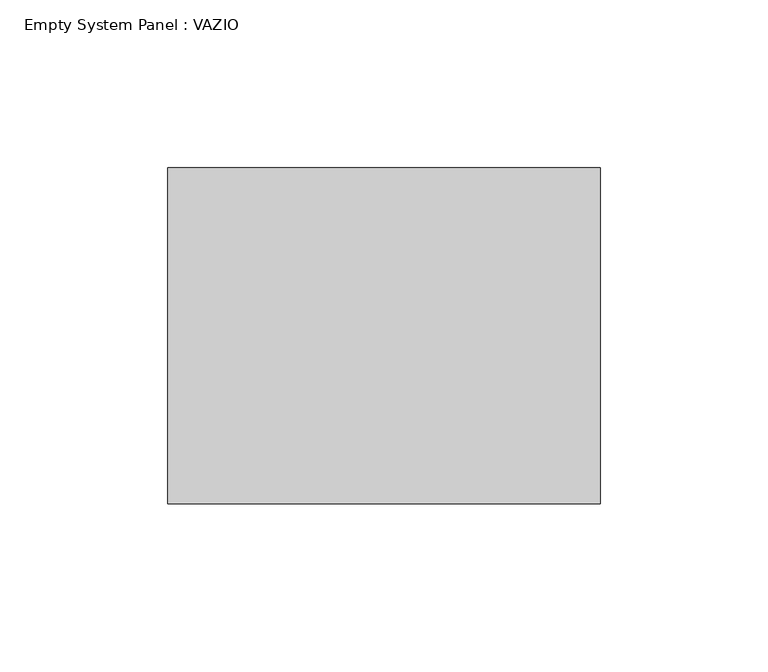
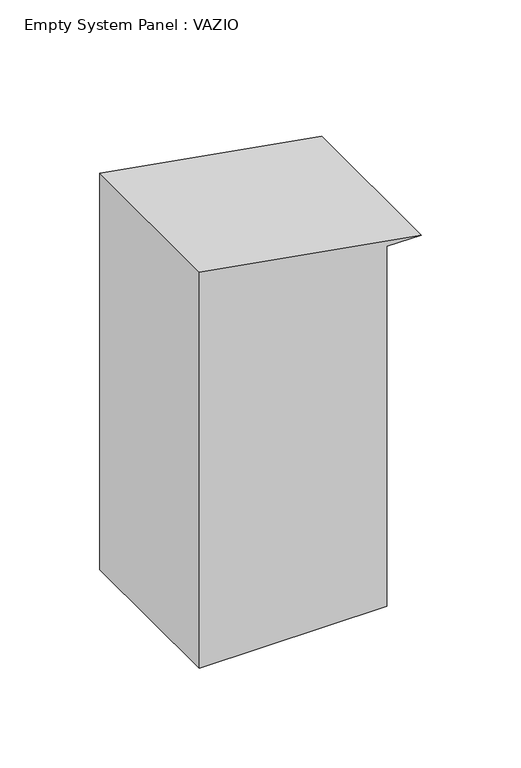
"""IFC4 building model written with IfcOpenShell, lengths in millimetres: plate geometry, Empty System Panel : VAZIO."""

from ifc_helpers import new_model, si_unit, point, frame, frame_2d, origin, place, context, project, spatial, polyline, circle_curve, trimmed, segment, composite_curve, outline, extrude, source, transform, mapped, element, save


def empty_system_panel_vazio_71582079(model_context):
    return source(origin(), model_context, "Body", "SweptSolid", [
        extrude(outline(composite_curve([segment(polyline([(0.0, -64.3902439), (0.0, 44.3902439), (220.5845797, 44.3902439), (220.5845797, 64.3902439)]), True, "CONTINUOUS"), segment(trimmed(circle_curve(frame_2d((-2933.8559746, -550.7317073)), 3213.8559746), [point((220.5845797, 64.3902439))], [point((242.9887189, -64.3902439))], False, "CARTESIAN"), True, "CONTINUOUS"), segment(polyline([(242.9887189, -64.3902439), (0.0, -64.3902439)]), True, "CONTINUOUS")], self_intersect=False)), frame((0.0, -50.0, 0.0), z_axis=(0.0, 1.0, 0.0), x_axis=(0.0, 0.0, 1.0)), (0.0, 0.0, 1.0), 100.0),
    ])


if __name__ == "__main__":
    model = new_model("IFC4")
    model_context = context("Model", 3, world=origin())
    ifc_project = project(units=[si_unit("LENGTHUNIT", "METRE", prefix="MILLI")], contexts=[model_context])
    site = spatial("IfcSite", under=ifc_project)
    building = spatial("IfcBuilding", under=site)
    placement = place(None, origin())
    empty_system_panel_vazio_shape = empty_system_panel_vazio_71582079(model_context)
    element("IfcPlate", 1, ObjectType="Empty System Panel : VAZIO", at=placement, inside=building, context=model_context, shape_type="MappedRepresentation", body=[
        mapped(empty_system_panel_vazio_shape, transform((0.0, 0.0, 0.0), x_axis=(1.0, 0.0, 0.0), y_axis=(0.0, 1.0, 0.0), z_axis=(0.0, 0.0, 1.0))),
    ])
    save(model, "model.ifc")
